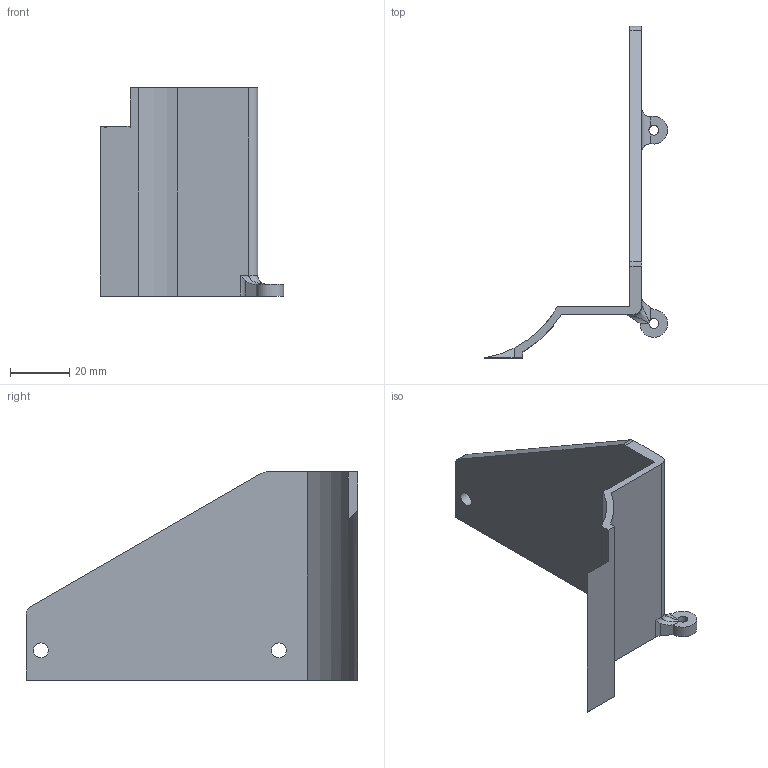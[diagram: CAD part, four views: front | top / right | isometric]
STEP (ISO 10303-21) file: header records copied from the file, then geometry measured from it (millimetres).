
FILE_DESCRIPTION(/* description */ ('STEP AP242 Edition 2','CAx-IF Rec.Pracs.---Representation and Presentation of Product Manufacturing Information (PMI)---4.0---2014-10-13','CAx-IF Rec.Pracs.---3D Tessellated Geometry---0.4---2014-09-14','2;1','CAx-IF Rec.Pracs.---User Defined Attributes---1.5---2016-08-15'),/* implementation_level */ '2;1');
FILE_NAME(/* name */ 'Part Studio 1 - Sorting Wall L',/* time_stamp */ '2026-04-09T20:19:24Z',/* author */ (''),/* organization */ (''),/* preprocessor_version */ 'ST-DEVELOPER v20',/* originating_system */ 'ONSHAPE BY PTC INC, 1.213',/* authorisation */ ' ');
FILE_SCHEMA (('AP242_MANAGED_MODEL_BASED_3D_ENGINEERING_MIM_LF { 1 0 10303 442 3 1 4 }'));
Length unit declared in the file: metre
Products named in the file (1): Sorting Wall L
Bounding box: 61.65 x 111.58 x 70 mm (x, y, z)
Volume: 28911.7 mm3; surface area: 19186.3 mm2
Topology: 1 solids, 1 shells, 35 faces, 103 edges, 68 vertices
Faces by surface type: cylinder 18, plane 16, bspline 1
Full cylindrical faces by diameter (mm): 3.3 x2, 5 x2
Entity records: 1196 total; most frequent: CARTESIAN_POINT 236, DIRECTION 199, ORIENTED_EDGE 192, EDGE_CURVE 96, AXIS2_PLACEMENT_3D 72, VERTEX_POINT 65, LINE 55, VECTOR 55
